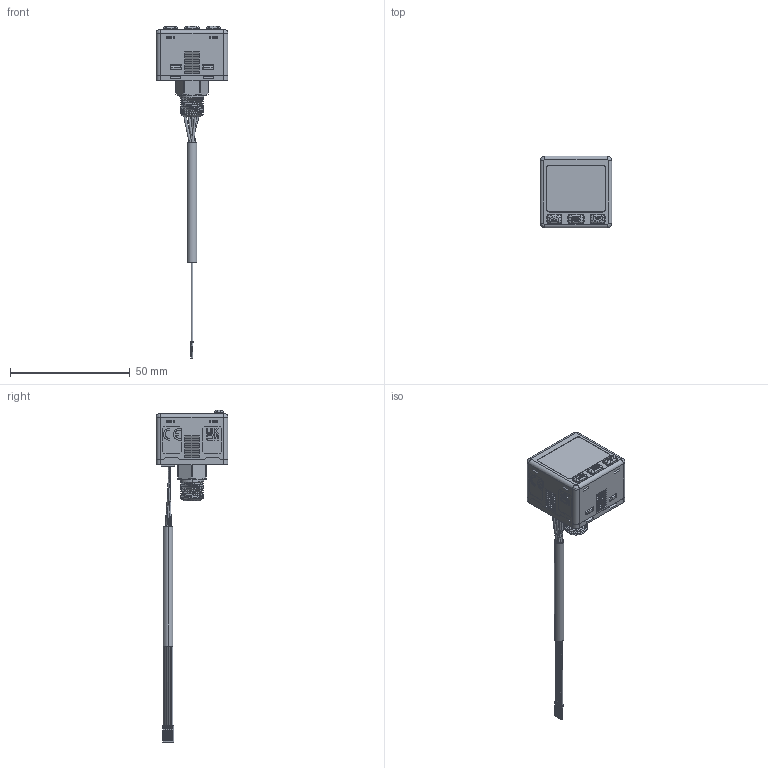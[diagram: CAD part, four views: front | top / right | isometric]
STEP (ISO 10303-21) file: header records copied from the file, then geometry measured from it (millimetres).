
FILE_DESCRIPTION((''),'2;1');
FILE_NAME('KP48-R8','2024-12-12T',('tommy'),(''),'CREO PARAMETRIC BY PTC INC, 2014500','CREO PARAMETRIC BY PTC INC, 2014500','');
FILE_SCHEMA(('CONFIG_CONTROL_DESIGN'));
Products named in the file (1): KP48-R8
Bounding box: 30 x 30 x 138.55 mm (x, y, z)
Volume: 9015.6 mm3; surface area: 15382.5 mm2
Topology: 1 solids, 1 shells, 2914 faces, 8344 edges, 5355 vertices
Faces by surface type: plane 1784, cylinder 552, bspline 254, extrusion 216, cone 106, torus 2
Entity records: 139070 total; most frequent: CARTESIAN_POINT 65904, ORIENTED_EDGE 16620, DIRECTION 12954, EDGE_CURVE 8310, VECTOR 5694, LINE 5478, VERTEX_POINT 5355, AXIS2_PLACEMENT_3D 3630
